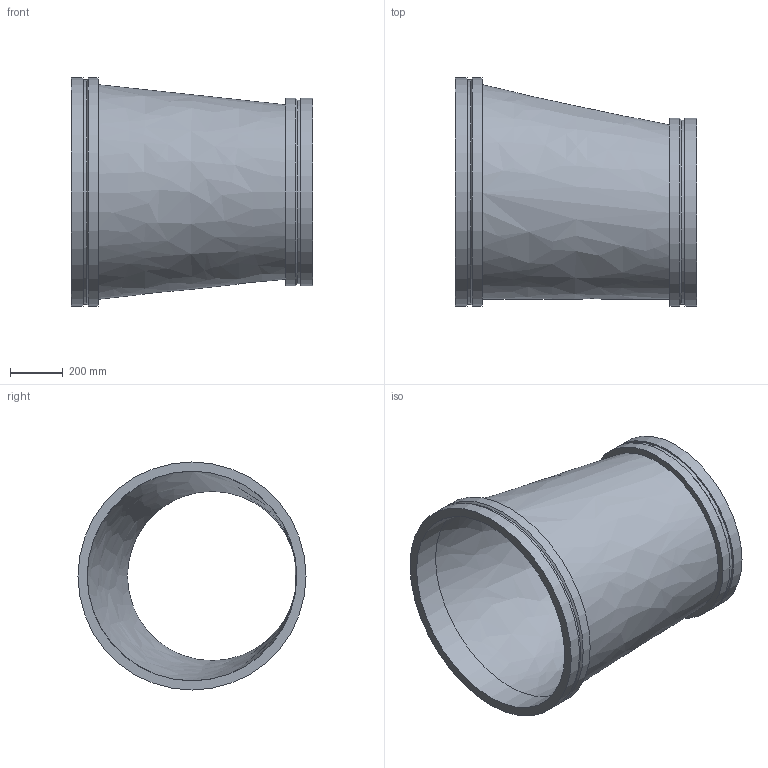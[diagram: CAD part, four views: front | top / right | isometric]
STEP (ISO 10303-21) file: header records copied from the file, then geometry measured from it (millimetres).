
FILE_DESCRIPTION(/* description */ ('VIC REDUCER ECCENTRIC No W51-VR','CAx-IF Rec.Pracs.---Representation and Presentation of Product Manufacturing Information (PMI)---4.0---2014-10-13'),/* implementation_level */ '2;1');
FILE_NAME(/* name */ 'C:\Users\kkamble\AppData\Roaming\Autodesk\ApplicationPlugins\Back Up\Victaulic_Vic-Ring_Reducer Eccentric_No W51 VR (AGR)\Victaulic_Vic-Ring_Reducer Eccentric_No W51 VR (AGR)_32.0x26.0 (800x650).stp',/* time_stamp */ '2020-09-10T11:50:22+05:00',/* author */ ('CONSTRUCTION PIPING SERVICES'),/* organization */ ('Victaulic'),/* preprocessor_version */ 'ST-DEVELOPER v17.2',/* originating_system */ 'Autodesk Inventor 2019',/* authorisation */ '');
FILE_SCHEMA (('AP242_MANAGED_MODEL_BASED_3D_ENGINEERING_MIM_LF { 1 0 10303 442 1 1 4 }'));
Length unit declared in the file: inch
Products named in the file (1): W51 VR-32.0x26.0
Bounding box: 914.4 x 863.6 x 863.6 mm (x, y, z)
Volume: 31680380.7 mm3; surface area: 4574784.8 mm2
Topology: 1 solids, 1 shells, 18 faces, 49 edges, 37 vertices
Faces by surface type: cylinder 8, plane 6, cone 2, bspline 2
Full cylindrical faces by diameter (mm): 641.35 x1, 696.722 x1, 711.2 x2, 793.75 x1, 849.122 x1, 863.6 x2
Entity records: 792 total; most frequent: CARTESIAN_POINT 158, DIRECTION 144, ORIENTED_EDGE 98, AXIS2_PLACEMENT_3D 67, EDGE_CURVE 49, CIRCLE 37, VERTEX_POINT 37, EDGE_LOOP 24
